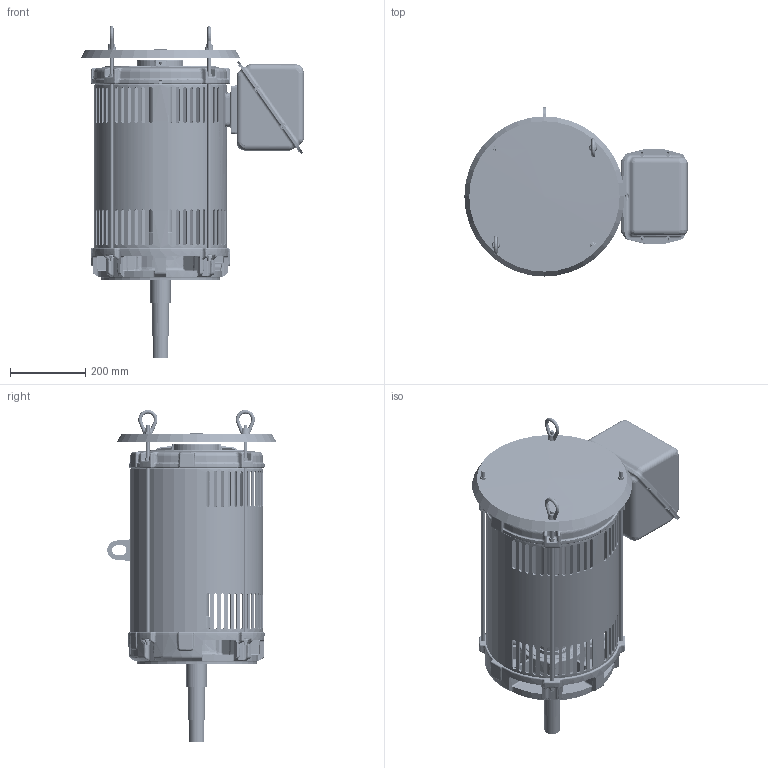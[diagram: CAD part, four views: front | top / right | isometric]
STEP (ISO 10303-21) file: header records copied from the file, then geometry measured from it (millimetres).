
FILE_DESCRIPTION((''),'2;1');
FILE_NAME('LATEST_4POLE_ASSY_ASM','2020-09-27T07:57:52',('EMD2341'),('Nidec Motor Corporation'),'CREO PARAMETRIC BY PTC INC, 2019080','CREO PARAMETRIC BY PTC INC, 2019080','');
FILE_SCHEMA(('CONFIG_CONTROL_DESIGN'));
Length unit declared in the file: inch
Products named in the file (18): 2088712_AF0; 2085559; 0263245; 0393774-003; 0391696; 375CC; 0991438-GSK; 2086395; 2048988-OBB; 2048939; 2048988-OBC; 2048940; 0003152; HJN012; 0394438-CVR; 0045333; JP_SHA; LATEST_4POLE_ASSY_ASM
Assembly tree (41 placements, depth 2):
  LATEST_4POLE_ASSY_ASM
    2088712_AF0
    2085559
    0263245
    0393774-003
    0391696
    375CC  x4
    0991438-GSK
    2086395
    2048988-OBB
    2048939
    2048988-OBC
    2048940
    0003152  x8
    HJN012  x14
    0394438-CVR
    0045333  x2
    JP_SHA
Bounding box: 591.36 x 448.52 x 879.56 mm (x, y, z)
Volume: 10001473.8 mm3; surface area: 3104575.5 mm2
Topology: 43 solids, 59 shells, 4986 faces, 11652 edges, 6747 vertices
Faces by surface type: bspline 1906, cylinder 1100, plane 823, torus 578, cone 394, sphere 185
Entity records: 218409 total; most frequent: CARTESIAN_POINT 123717, ORIENTED_EDGE 21816, DIRECTION 16920, EDGE_CURVE 10938, AXIS2_PLACEMENT_3D 7228, VERTEX_POINT 6315, EDGE_LOOP 5017, FACE_OUTER_BOUND 4686
